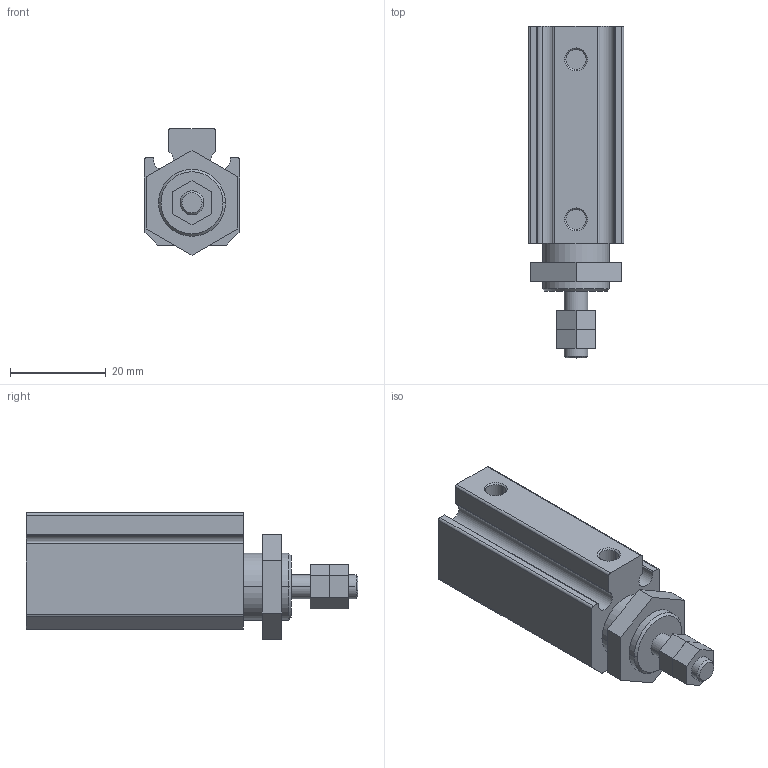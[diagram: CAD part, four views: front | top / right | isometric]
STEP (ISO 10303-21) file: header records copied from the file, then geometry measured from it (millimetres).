
FILE_DESCRIPTION((''),'2;1');
FILE_NAME('D:\CHANTO-3D-已完成\2010\第三大類\第三大類-3D\AAP-3D\AAP16X20.stp','2010-09-18T08:42:28',('Administrator'),(''),'Autodesk Inventor 8','Autodesk Inventor 8','');
FILE_SCHEMA(('AUTOMOTIVE_DESIGN { 1 0 10303 214 1 1 1 1 }'));
Length unit declared in the file: millimetre
Products named in the file (1): AAP16X20
Bounding box: 20 x 69.5 x 26.47 mm (x, y, z)
Volume: 20858.6 mm3; surface area: 6504.4 mm2
Topology: 1 solids, 1 shells, 78 faces, 190 edges, 124 vertices
Faces by surface type: plane 40, cylinder 30, cone 8
Entity records: 2321 total; most frequent: DIRECTION 416, CARTESIAN_POINT 393, ORIENTED_EDGE 380, EDGE_CURVE 190, AXIS2_PLACEMENT_3D 147, VERTEX_POINT 124, VECTOR 122, LINE 122
